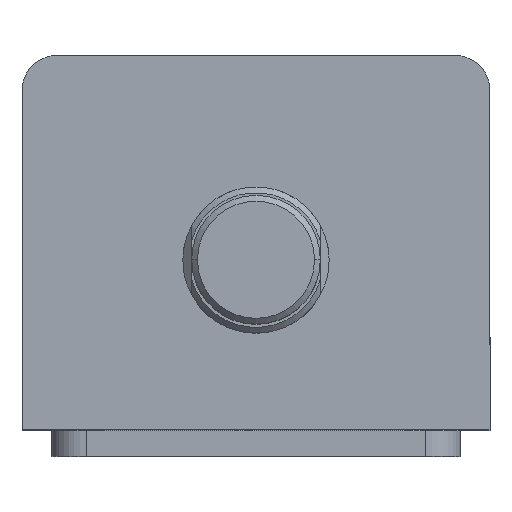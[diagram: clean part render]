
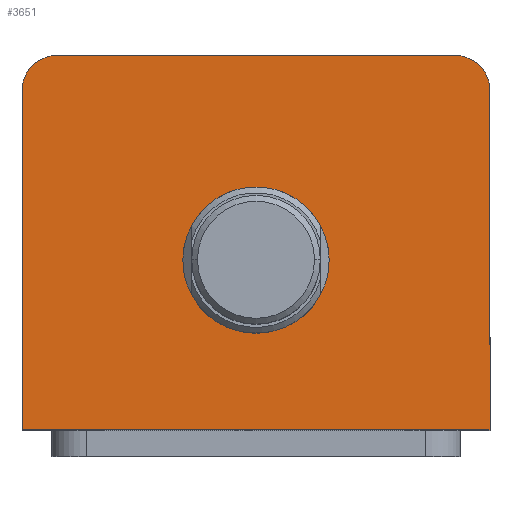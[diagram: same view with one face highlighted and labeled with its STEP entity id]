
A CAD part, top view. The second image highlights one B-rep face of the part: STEP entity #3651.
In plain terms, the highlighted planar face has unit normal (0, 0, 1).
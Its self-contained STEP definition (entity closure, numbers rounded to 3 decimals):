
#89 = DIRECTION ( 'NONE',  ( 1., 0., 0. ) ) ;
#92 = DIRECTION ( 'NONE',  ( 0., 0., 1. ) ) ;
#93 = CARTESIAN_POINT ( 'NONE',  ( 0., -3., 75. ) ) ;
#599 = ORIENTED_EDGE ( 'NONE', *, *, #1868, .T. ) ;
#600 = ORIENTED_EDGE ( 'NONE', *, *, #1858, .T. ) ;
#601 = ORIENTED_EDGE ( 'NONE', *, *, #2108, .T. ) ;
#602 = ORIENTED_EDGE ( 'NONE', *, *, #1886, .T. ) ;
#603 = ORIENTED_EDGE ( 'NONE', *, *, #1880, .T. ) ;
#604 = ORIENTED_EDGE ( 'NONE', *, *, #1835, .T. ) ;
#605 = ORIENTED_EDGE ( 'NONE', *, *, #2069, .F. ) ;
#606 = ORIENTED_EDGE ( 'NONE', *, *, #1901, .F. ) ;
#667 = EDGE_LOOP ( 'NONE', ( #606, #605 ) ) ;
#698 = EDGE_LOOP ( 'NONE', ( #604, #603, #602, #601, #600, #599 ) ) ;
#812 = VERTEX_POINT ( 'NONE', #3581 ) ;
#825 = VERTEX_POINT ( 'NONE', #3568 ) ;
#843 = VERTEX_POINT ( 'NONE', #3550 ) ;
#849 = VERTEX_POINT ( 'NONE', #3544 ) ;
#859 = VERTEX_POINT ( 'NONE', #3534 ) ;
#892 = VERTEX_POINT ( 'NONE', #3501 ) ;
#898 = VERTEX_POINT ( 'NONE', #3493 ) ;
#961 = VERTEX_POINT ( 'NONE', #3419 ) ;
#1116 = LINE ( 'NONE', #2234, #1119 ) ;
#1119 = VECTOR ( 'NONE', #2428, 1000. ) ;
#1155 = LINE ( 'NONE', #2454, #1158 ) ;
#1158 = VECTOR ( 'NONE', #2432, 1000. ) ;
#1164 = CIRCLE ( 'NONE', #1502, 6. ) ;
#1175 = CIRCLE ( 'NONE', #1509, 6. ) ;
#1178 = LINE ( 'NONE', #2445, #1184 ) ;
#1184 = VECTOR ( 'NONE', #2192, 1000. ) ;
#1207 = CIRCLE ( 'NONE', #1511, 12.5 ) ;
#1403 = CIRCLE ( 'NONE', #1581, 12.5 ) ;
#1458 = LINE ( 'NONE', #3275, #1465 ) ;
#1465 = VECTOR ( 'NONE', #3271, 1000. ) ;
#1502 = AXIS2_PLACEMENT_3D ( 'NONE', #2207, #2200, #2490 ) ;
#1509 = AXIS2_PLACEMENT_3D ( 'NONE', #2412, #2442, #2444 ) ;
#1511 = AXIS2_PLACEMENT_3D ( 'NONE', #2281, #2287, #2416 ) ;
#1581 = AXIS2_PLACEMENT_3D ( 'NONE', #93, #92, #89 ) ;
#1625 = AXIS2_PLACEMENT_3D ( 'NONE', #3150, #3143, #3142 ) ;
#1835 = EDGE_CURVE ( 'NONE', #825, #812, #1116, .T. ) ;
#1858 = EDGE_CURVE ( 'NONE', #859, #849, #1155, .T. ) ;
#1868 = EDGE_CURVE ( 'NONE', #849, #825, #1164, .T. ) ;
#1880 = EDGE_CURVE ( 'NONE', #812, #843, #1175, .T. ) ;
#1886 = EDGE_CURVE ( 'NONE', #843, #892, #1178, .T. ) ;
#1901 = EDGE_CURVE ( 'NONE', #961, #898, #1207, .T. ) ;
#2069 = EDGE_CURVE ( 'NONE', #898, #961, #1403, .T. ) ;
#2108 = EDGE_CURVE ( 'NONE', #892, #859, #1458, .T. ) ;
#2192 = DIRECTION ( 'NONE',  ( 0., -1., 0. ) ) ;
#2200 = DIRECTION ( 'NONE',  ( 0., 0., 1. ) ) ;
#2207 = CARTESIAN_POINT ( 'NONE',  ( 34., 26., 75. ) ) ;
#2234 = CARTESIAN_POINT ( 'NONE',  ( -40., 32., 75. ) ) ;
#2281 = CARTESIAN_POINT ( 'NONE',  ( 0., -3., 75. ) ) ;
#2287 = DIRECTION ( 'NONE',  ( 0., 0., 1. ) ) ;
#2412 = CARTESIAN_POINT ( 'NONE',  ( -34., 26., 75. ) ) ;
#2416 = DIRECTION ( 'NONE',  ( 1., 0., 0. ) ) ;
#2428 = DIRECTION ( 'NONE',  ( -1., 0., 0. ) ) ;
#2432 = DIRECTION ( 'NONE',  ( 0., 1., 0. ) ) ;
#2442 = DIRECTION ( 'NONE',  ( 0., 0., 1. ) ) ;
#2444 = DIRECTION ( 'NONE',  ( 1., 0., 0. ) ) ;
#2445 = CARTESIAN_POINT ( 'NONE',  ( -40., 32., 75. ) ) ;
#2454 = CARTESIAN_POINT ( 'NONE',  ( 40., 32., 75. ) ) ;
#2490 = DIRECTION ( 'NONE',  ( 1., 0., 0. ) ) ;
#2516 = FACE_BOUND ( 'NONE', #667, .T. ) ;
#2521 = FACE_OUTER_BOUND ( 'NONE', #698, .T. ) ;
#3142 = DIRECTION ( 'NONE',  ( 1., 0., 0. ) ) ;
#3143 = DIRECTION ( 'NONE',  ( 0., 0., 1. ) ) ;
#3149 = PLANE ( 'NONE',  #1625 ) ;
#3150 = CARTESIAN_POINT ( 'NONE',  ( 0., 0., 75. ) ) ;
#3271 = DIRECTION ( 'NONE',  ( 1., 0., 0. ) ) ;
#3275 = CARTESIAN_POINT ( 'NONE',  ( -40., -32., 75. ) ) ;
#3419 = CARTESIAN_POINT ( 'NONE',  ( 12.5, -3., 75. ) ) ;
#3493 = CARTESIAN_POINT ( 'NONE',  ( -12.5, -3., 75. ) ) ;
#3501 = CARTESIAN_POINT ( 'NONE',  ( -40., -32., 75. ) ) ;
#3534 = CARTESIAN_POINT ( 'NONE',  ( 40., -32., 75. ) ) ;
#3544 = CARTESIAN_POINT ( 'NONE',  ( 40., 26., 75. ) ) ;
#3550 = CARTESIAN_POINT ( 'NONE',  ( -40., 26., 75. ) ) ;
#3568 = CARTESIAN_POINT ( 'NONE',  ( 34., 32., 75. ) ) ;
#3581 = CARTESIAN_POINT ( 'NONE',  ( -34., 32., 75. ) ) ;
#3651 = ADVANCED_FACE ( 'NONE', ( #2516, #2521 ), #3149, .T. ) ;
